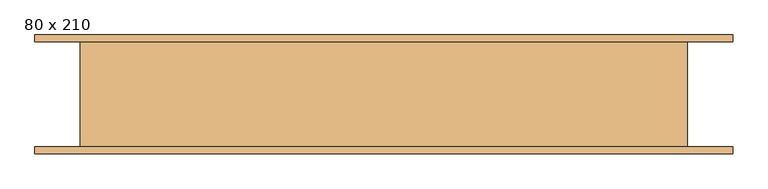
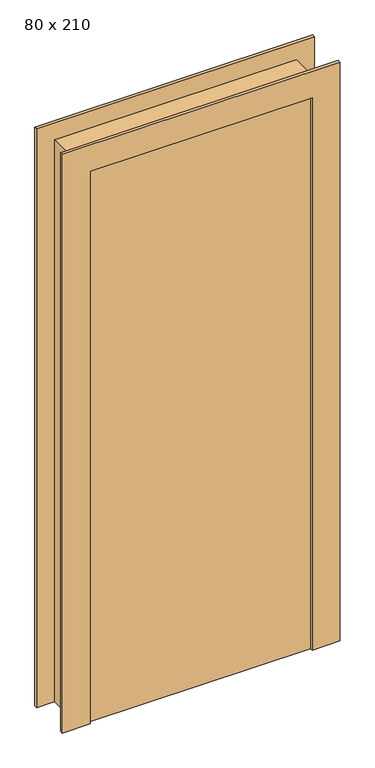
"""IFC4 building model written with IfcOpenShell, lengths in millimetres: door geometry, PORTA VAI-E-VEM - 1 FOLHA : 80 x 210."""

from ifc_helpers import new_model, si_unit, frame, origin, origin_with_axes, place, context, project, spatial, polyline, outline, extrude, source, transform, mapped, element, save


def door_80_x_210_7cd56997(model_context):
    return source(origin(), model_context, "Body", "SweptSolid", [
        extrude(outline(polyline([(430.0, -81.5178024), (-370.0, -81.5178024), (-370.0, -41.5178024), (430.0, -41.5178024), (430.0, -81.5178024)])), origin_with_axes(), (0.0, 0.0, 1.0), 2100.0),
        extrude(outline(polyline([(2100.0, 430.0), (0.0, 430.0), (0.0, 530.0), (2200.0, 530.0), (2200.0, -470.0), (0.0, -470.0), (0.0, -370.0), (2100.0, -370.0), (2100.0, 430.0)])), frame((0.0, 68.4821976, 0.0), z_axis=(0.0, 1.0, 0.0), x_axis=(0.0, 0.0, 1.0)), (0.0, 0.0, 1.0), 10.0),
        extrude(outline(polyline([(2100.0, -370.0), (2100.0, 430.0), (0.0, 430.0), (0.0, 530.0), (2200.0, 530.0), (2200.0, -470.0), (0.0, -470.0), (0.0, -370.0), (2100.0, -370.0)])), frame((0.0, -91.5178024, 0.0), z_axis=(0.0, 1.0, 0.0), x_axis=(0.0, 0.0, 1.0)), (0.0, 0.0, 1.0), 10.0),
        extrude(outline(polyline([(0.0, -405.0), (0.0, -370.0), (2100.0, -370.0), (2100.0, 430.0), (0.0, 430.0), (0.0, 465.0), (2135.0, 465.0), (2135.0, -405.0), (0.0, -405.0)])), frame((0.0, -81.5178024, 0.0), z_axis=(0.0, 1.0, 0.0), x_axis=(0.0, 0.0, 1.0)), (0.0, 0.0, 1.0), 150.0),
    ])


if __name__ == "__main__":
    model = new_model("IFC4")
    model_context = context("Model", 3, world=origin())
    ifc_project = project(units=[si_unit("LENGTHUNIT", "METRE", prefix="MILLI")], contexts=[model_context])
    site = spatial("IfcSite", under=ifc_project)
    building = spatial("IfcBuilding", under=site)
    placement = place(None, origin())
    door_80_x_210_shape = door_80_x_210_7cd56997(model_context)
    element("IfcDoor", 1, ObjectType="PORTA VAI-E-VEM - 1 FOLHA : 80 x 210", at=placement, inside=building, context=model_context, shape_type="MappedRepresentation", body=[
        mapped(door_80_x_210_shape, transform((0.0, 0.0, 0.0), x_axis=(1.0, 0.0, 0.0), y_axis=(0.0, 1.0, 0.0), z_axis=(0.0, 0.0, 1.0))),
    ])
    save(model, "model.ifc")
